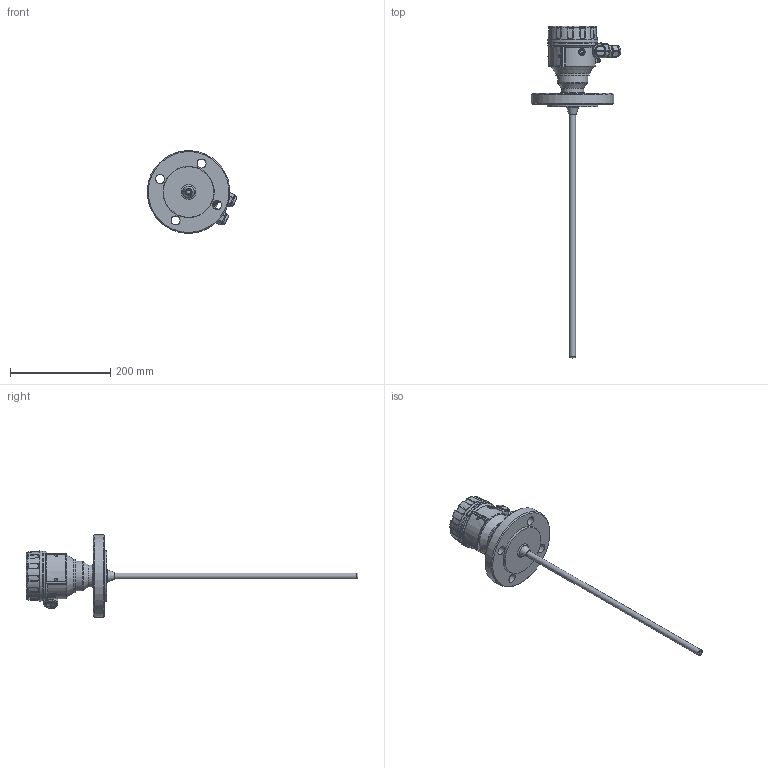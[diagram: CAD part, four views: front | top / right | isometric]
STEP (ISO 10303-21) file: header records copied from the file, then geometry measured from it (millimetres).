
FILE_DESCRIPTION(/* description */ (''),/* implementation_level */ '2;1');
FILE_NAME(/* name */ 'I:\Raj\3D\készülék rajzok\Összeállított készülékek\HT\HBQ_7.stp',/* time_stamp */ '2022-08-24T14:50:25+02:00',/* author */ ('zcserhati'),/* organization */ (''),/* preprocessor_version */ 'ST-DEVELOPER v15.6',/* originating_system */ 'Autodesk Inventor 2015',/* authorisation */ '');
FILE_SCHEMA (('AUTOMOTIVE_DESIGN { 1 0 10303 214 3 1 1 }'));
Products named in the file (23): RKH_1_1.0001; ZARO; SB_külső; U_Alát; DIN 128 - A4; DIN 7985 (Z) - M4x8-Z; Tlem_egy; adattabla; Szegecs; SZERELTHAZ; Alu_alacsony_uveg; Hegesztett_karima_Welds; DN50_PN40; Menetes_agy; Hegesztett_karima; Munkaléc; Rud; SZON_TEFL; Tomsz; Alatet; Gumidugo; Tomszel_sz; HBQ_7
Bounding box: 178.1 x 662.4 x 164.48 mm (x, y, z)
Volume: 793242.4 mm3; surface area: 232284.9 mm2
Topology: 25 solids, 25 shells, 1193 faces, 2890 edges, 1754 vertices
Faces by surface type: plane 334, bspline 330, cylinder 319, torus 80, cone 74, sphere 56
Full cylindrical faces by diameter (mm): 3 x6, 3.2 x2, 3.242 x1, 3.4 x2, 3.5 x5, 3.65 x1, 3.9 x1, 4 x1, 4.1 x1, 4.3 x1, 5.9 x1, 6 x2, 8 x2, 10 x2, 11.6 x1, 12 x1, 12.5 x4, 14 x2, 17 x3, 18 x4, 18.15 x7, 18.3 x12, 20 x10, 23.5 x2, 25 x2, 26 x1, 27.5 x2, 30 x1, 32.5 x1, 33.2 x2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
Entity records: 47403 total; most frequent: CARTESIAN_POINT 23513, ORIENTED_EDGE 4910, DIRECTION 4323, EDGE_CURVE 2453, AXIS2_PLACEMENT_3D 1826, VERTEX_POINT 1568, EDGE_LOOP 1315, FACE_OUTER_BOUND 1098
